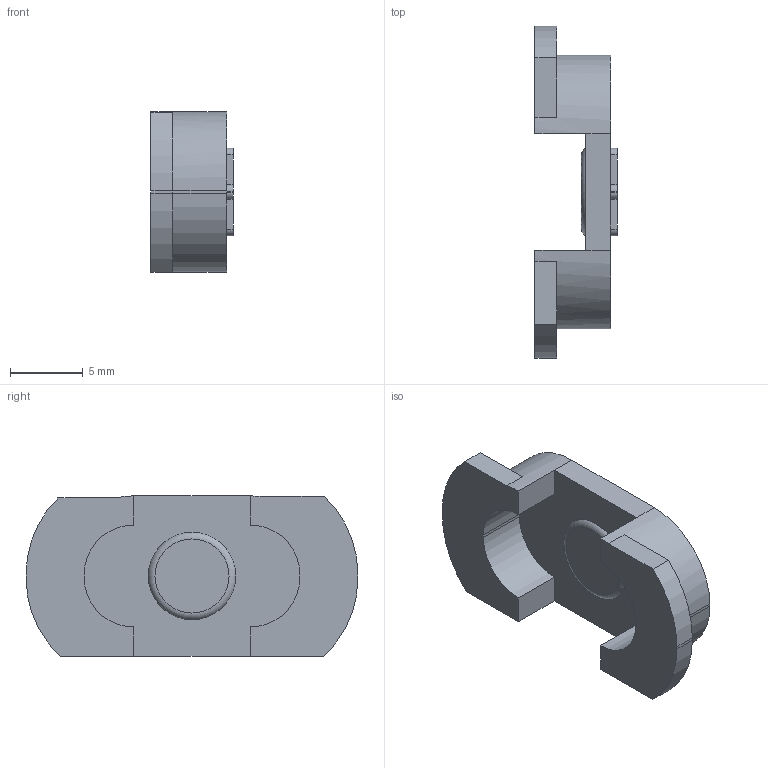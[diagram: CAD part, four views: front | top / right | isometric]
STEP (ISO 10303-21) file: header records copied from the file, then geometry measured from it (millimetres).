
FILE_DESCRIPTION(/* description */ (''),/* implementation_level */ '2;1');
FILE_NAME(/* name */ '02_Volume_Plus.step',/* time_stamp */ '2026-09-20T10:25:48-07:00',/* author */ (''),/* organization */ (''),/* preprocessor_version */ 'ST-DEVELOPER v20.2',/* originating_system */ 'Autodesk Translation Framework v15.15.0.0',/* authorisation */ '');
FILE_SCHEMA (('AUTOMOTIVE_DESIGN { 1 0 10303 214 3 1 1 }'));
Length unit declared in the file: millimetre
Products named in the file (1): 2026-09-20-10-25-48-467
Bounding box: 5.65 x 22.8 x 11 mm (x, y, z)
Volume: 596.9 mm3; surface area: 806.8 mm2
Topology: 1 solids, 1 shells, 57 faces, 153 edges, 100 vertices
Faces by surface type: plane 36, cylinder 20, torus 1
Entity records: 1817 total; most frequent: DIRECTION 314, CARTESIAN_POINT 311, ORIENTED_EDGE 306, EDGE_CURVE 153, LINE 108, VECTOR 108, AXIS2_PLACEMENT_3D 103, VERTEX_POINT 100
